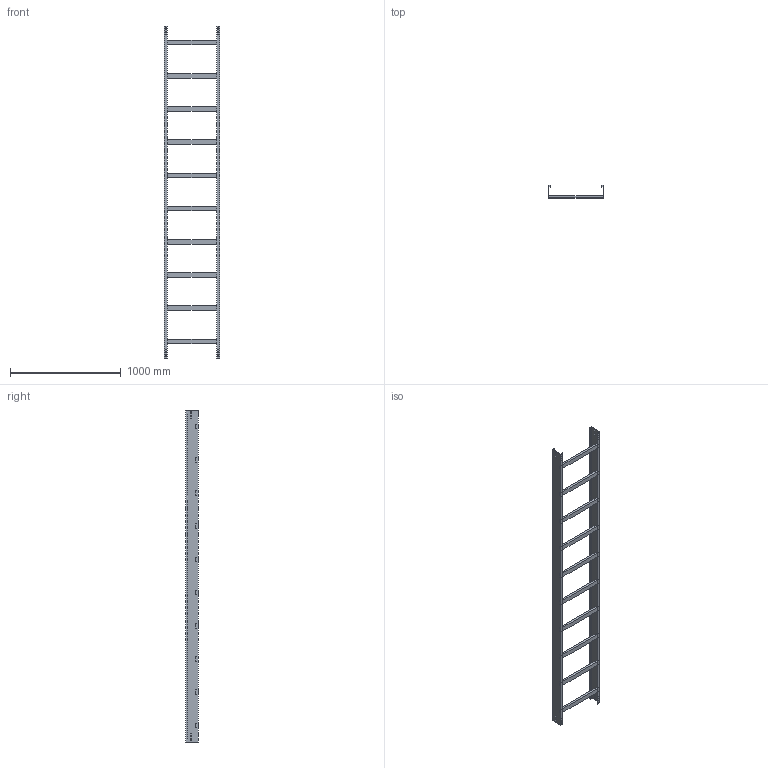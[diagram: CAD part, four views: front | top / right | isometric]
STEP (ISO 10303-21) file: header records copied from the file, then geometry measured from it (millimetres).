
FILE_DESCRIPTION (( 'STEP AP214' ), '1' );
FILE_NAME ('01B3J500.step', '2025-02-21T16:00:21', ( '' ), ( '' ), 'SwSTEP 2.0', 'SolidWorks 2023', '' );
FILE_SCHEMA (( 'AUTOMOTIVE_DESIGN' ));
Length unit declared in the file: millimetre
Products named in the file (3): 01B3J500; LONGH.H112.5; TRAVERSINO_500
Assembly tree (12 placements, depth 2):
  01B3J500
    LONGH.H112.5  x2
    TRAVERSINO_500  x10
Bounding box: 500 x 112.5 x 3000 mm (x, y, z)
Volume: 6814672 mm3; surface area: 2481156 mm2
Topology: 12 solids, 12 shells, 144 faces, 360 edges, 240 vertices
Faces by surface type: plane 144
Entity records: 1696 total; most frequent: CARTESIAN_POINT 283, ORIENTED_EDGE 264, DIRECTION 258, LINE 132, EDGE_CURVE 132, VECTOR 132, VERTEX_POINT 88, EDGE_LOOP 64
